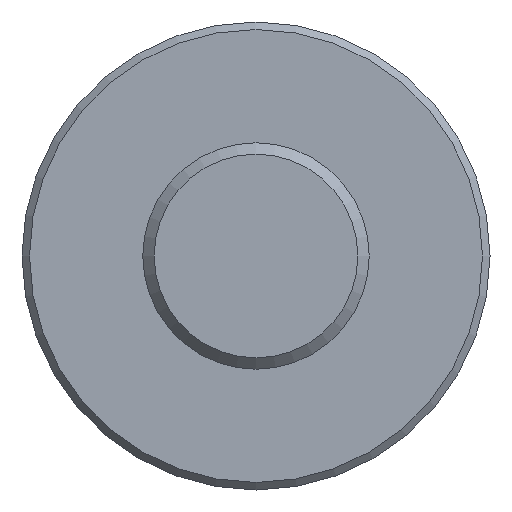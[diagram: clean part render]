
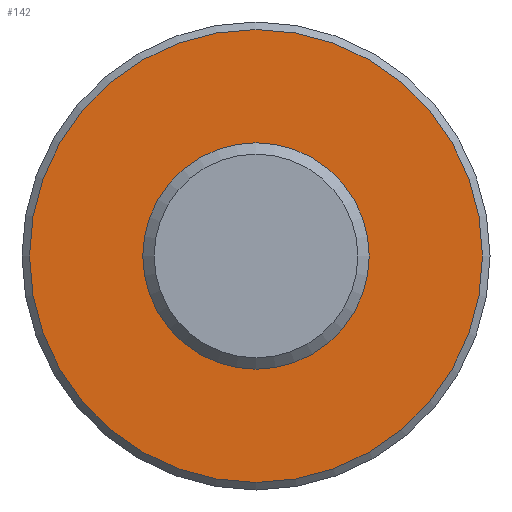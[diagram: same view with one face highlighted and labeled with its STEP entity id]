
A CAD part, front view. The second image highlights one B-rep face of the part: STEP entity #142.
In plain terms, the highlighted planar face has unit normal (0, -1, 0).
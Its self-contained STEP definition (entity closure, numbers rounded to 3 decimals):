
#21 = ORIENTED_EDGE ( 'NONE', *, *, #298, .T. ) ;
#68 = FACE_OUTER_BOUND ( 'NONE', #180, .T. ) ;
#86 = DIRECTION ( 'NONE',  ( 0., 0., 1. ) ) ;
#133 = AXIS2_PLACEMENT_3D ( 'NONE', #224, #175, #86 ) ;
#142 = ADVANCED_FACE ( 'NONE', ( #68, #426 ), #447, .F. ) ;
#164 = CARTESIAN_POINT ( 'NONE',  ( -3.1, 8.8, 0. ) ) ;
#175 = DIRECTION ( 'NONE',  ( 0., -1., 0. ) ) ;
#177 = DIRECTION ( 'NONE',  ( 0., 0., -1. ) ) ;
#180 = EDGE_LOOP ( 'NONE', ( #21 ) ) ;
#224 = CARTESIAN_POINT ( 'NONE',  ( 0., 8.8, 0. ) ) ;
#234 = CIRCLE ( 'NONE', #133, 3. ) ;
#261 = CARTESIAN_POINT ( 'NONE',  ( 0., 8.8, 0. ) ) ;
#298 = EDGE_CURVE ( 'NONE', #550, #550, #234, .T. ) ;
#301 = CARTESIAN_POINT ( 'NONE',  ( 0., 8.8, 3. ) ) ;
#329 = EDGE_CURVE ( 'NONE', #438, #438, #568, .T. ) ;
#344 = AXIS2_PLACEMENT_3D ( 'NONE', #261, #587, #177 ) ;
#396 = CARTESIAN_POINT ( 'NONE',  ( 0., 8.8, -1.5 ) ) ;
#405 = AXIS2_PLACEMENT_3D ( 'NONE', #164, #573, #445 ) ;
#408 = ORIENTED_EDGE ( 'NONE', *, *, #329, .F. ) ;
#426 = FACE_BOUND ( 'NONE', #431, .T. ) ;
#431 = EDGE_LOOP ( 'NONE', ( #408 ) ) ;
#438 = VERTEX_POINT ( 'NONE', #396 ) ;
#445 = DIRECTION ( 'NONE',  ( 0., 0., 1. ) ) ;
#447 = PLANE ( 'NONE',  #405 ) ;
#550 = VERTEX_POINT ( 'NONE', #301 ) ;
#568 = CIRCLE ( 'NONE', #344, 1.5 ) ;
#573 = DIRECTION ( 'NONE',  ( 0., 1., 0. ) ) ;
#587 = DIRECTION ( 'NONE',  ( 0., -1., 0. ) ) ;
